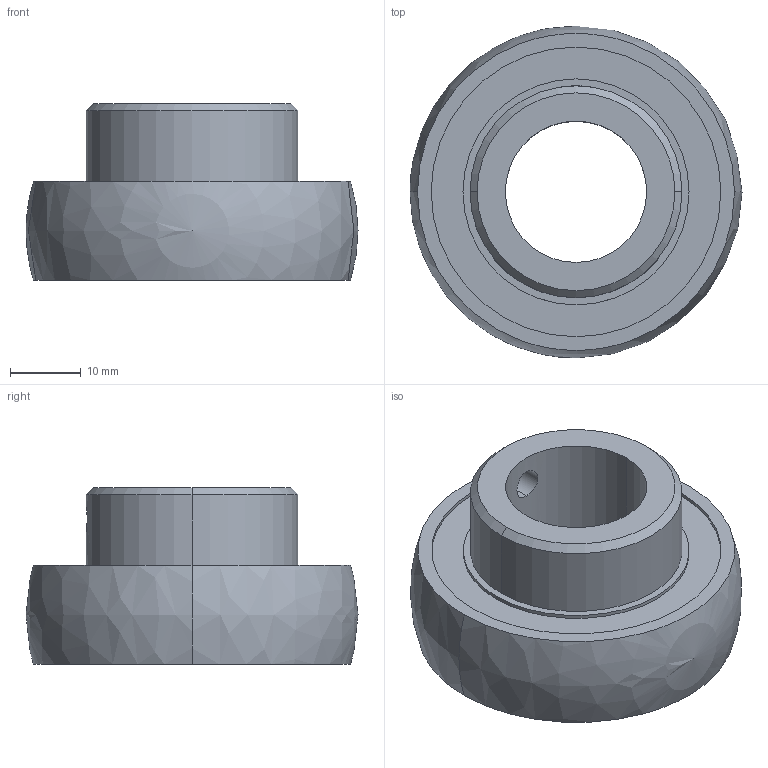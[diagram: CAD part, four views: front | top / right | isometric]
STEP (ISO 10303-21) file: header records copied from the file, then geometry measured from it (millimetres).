
FILE_DESCRIPTION (( 'STEP AP203' ), '1' );
FILE_NAME ('084.802.019.STEP', '2013-01-29T14:10:50', ( 'Alusic' ), ( 'Alusic' ), 'SwSTEP 2.0', 'SolidWorks 2011', '' );
FILE_SCHEMA (( 'CONFIG_CONTROL_DESIGN' ));
Length unit declared in the file: millimetre
Products named in the file (1): 084.802.019
Bounding box: 47 x 47 x 25 mm (x, y, z)
Volume: 20682.2 mm3; surface area: 13745.1 mm2
Topology: 2 solids, 3 shells, 45 faces, 97 edges, 59 vertices
Faces by surface type: cylinder 22, torus 10, plane 9, cone 2, sphere 2
Entity records: 1395 total; most frequent: CARTESIAN_POINT 306, DIRECTION 244, ORIENTED_EDGE 184, AXIS2_PLACEMENT_3D 110, EDGE_CURVE 92, CIRCLE 64, VERTEX_POINT 56, EDGE_LOOP 56
